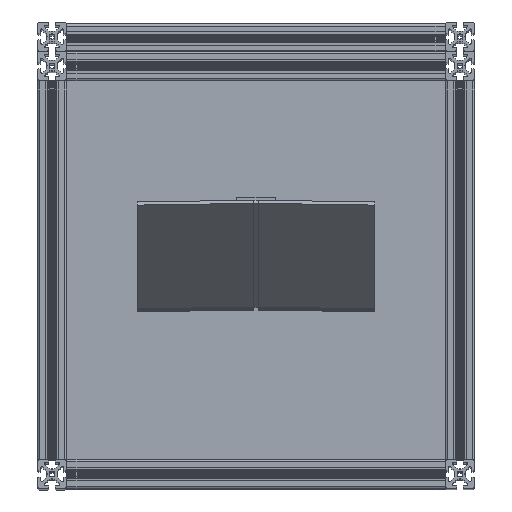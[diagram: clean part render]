
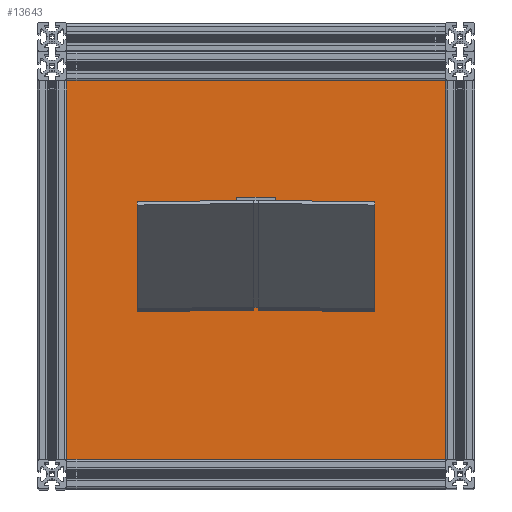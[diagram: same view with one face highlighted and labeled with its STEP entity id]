
A CAD part, top view. The second image highlights one B-rep face of the part: STEP entity #13643.
In plain terms, the highlighted planar face has unit normal (0, 0, 1) as drawn and (0, -1, 0) by its records, which use the part's own axes.
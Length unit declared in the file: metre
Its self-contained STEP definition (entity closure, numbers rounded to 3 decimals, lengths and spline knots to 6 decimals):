
#655=PLANE('',#14804);
#1980=LINE('',#23398,#3313);
#1984=LINE('',#23406,#3317);
#1987=LINE('',#23412,#3320);
#1989=LINE('',#23415,#3322);
#3313=VECTOR('',#18334,1.);
#3317=VECTOR('',#18340,1.);
#3320=VECTOR('',#18345,1.);
#3322=VECTOR('',#18349,1.);
#7517=ORIENTED_EDGE('',*,*,#9616,.F.);
#7518=ORIENTED_EDGE('',*,*,#9620,.T.);
#7519=ORIENTED_EDGE('',*,*,#9623,.T.);
#7520=ORIENTED_EDGE('',*,*,#9625,.F.);
#9616=EDGE_CURVE('',#11168,#11169,#1980,.T.);
#9620=EDGE_CURVE('',#11168,#11171,#1984,.T.);
#9623=EDGE_CURVE('',#11171,#11173,#1987,.T.);
#9625=EDGE_CURVE('',#11169,#11173,#1989,.T.);
#11168=VERTEX_POINT('',#23397);
#11169=VERTEX_POINT('',#23399);
#11171=VERTEX_POINT('',#23405);
#11173=VERTEX_POINT('',#23411);
#12221=EDGE_LOOP('',(#7517,#7518,#7519,#7520));
#12794=FACE_BOUND('',#12221,.T.);
#13643=ADVANCED_FACE('',(#12794),#655,.T.);
#14804=AXIS2_PLACEMENT_3D('',#23416,#18350,#18351);
#18334=DIRECTION('',(1.,0.,0.));
#18340=DIRECTION('',(0.,0.,-1.));
#18345=DIRECTION('',(1.,0.,0.));
#18349=DIRECTION('',(0.,0.,-1.));
#18350=DIRECTION('',(0.,-1.,0.));
#18351=DIRECTION('',(1.,0.,0.));
#23397=CARTESIAN_POINT('',(-0.2667,-0.47625,0.24765));
#23398=CARTESIAN_POINT('',(0.,-0.47625,0.24765));
#23399=CARTESIAN_POINT('',(0.2667,-0.47625,0.24765));
#23405=CARTESIAN_POINT('',(-0.2667,-0.47625,-0.24765));
#23406=CARTESIAN_POINT('',(-0.2667,-0.47625,0.));
#23411=CARTESIAN_POINT('',(0.2667,-0.47625,-0.24765));
#23412=CARTESIAN_POINT('',(0.,-0.47625,-0.24765));
#23415=CARTESIAN_POINT('',(0.2667,-0.47625,0.));
#23416=CARTESIAN_POINT('',(0.,-0.47625,0.));
